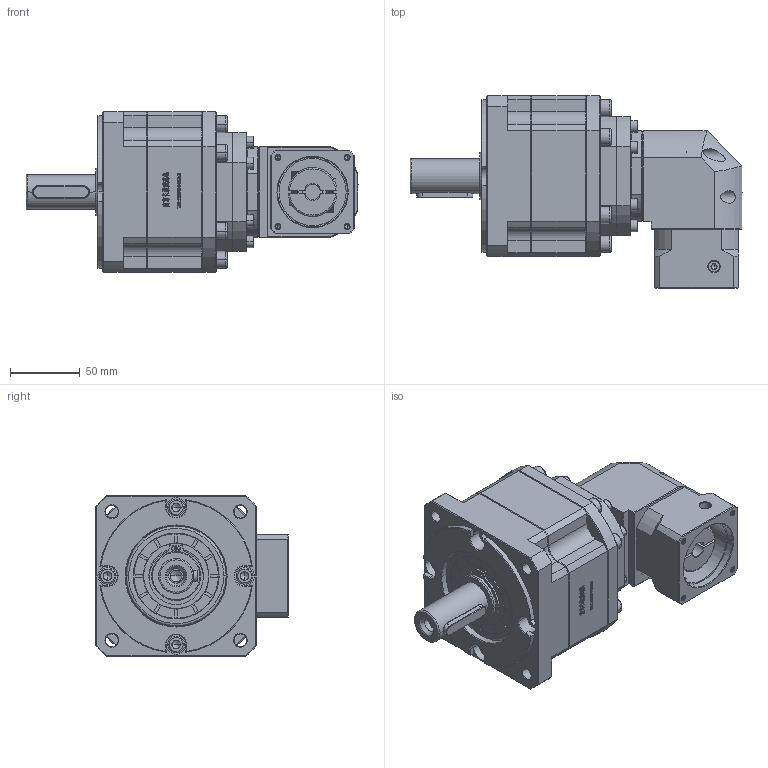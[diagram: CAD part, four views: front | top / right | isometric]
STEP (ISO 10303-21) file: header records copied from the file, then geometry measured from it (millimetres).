
FILE_DESCRIPTION (( 'STEP AP214' ), '1' );
FILE_NAME ('ZB115A-D25-L3-11-50-70-M4.step', '2023-03-03T08:01:38', ( '' ), ( 'Microsoft' ), 'SwSTEP 2.0', 'SolidWorks 2016', '' );
FILE_SCHEMA (( 'AUTOMOTIVE_DESIGN' ));
Length unit declared in the file: millimetre
Products named in the file (1): ZB115A-D25-L3-11-50-70-M4
Bounding box: 237.5 x 137.7 x 115 mm (x, y, z)
Volume: 1551792.4 mm3; surface area: 144697.8 mm2
Topology: 6 solids, 6 shells, 3230 faces, 8604 edges, 5536 vertices
Faces by surface type: plane 1719, bspline 625, cylinder 477, cone 389, torus 20
Entity records: 168015 total; most frequent: CARTESIAN_POINT 56828, ORIENTED_EDGE 17084, DIRECTION 13336, EDGE_CURVE 8542, LINE 5660, VECTOR 5660, VERTEX_POINT 5536, AXIS2_PLACEMENT_3D 3838
